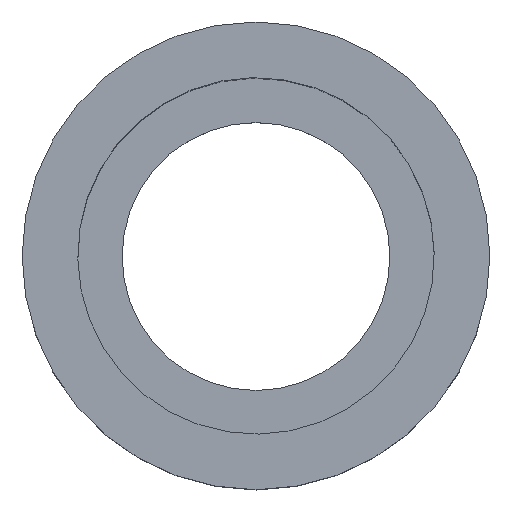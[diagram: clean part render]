
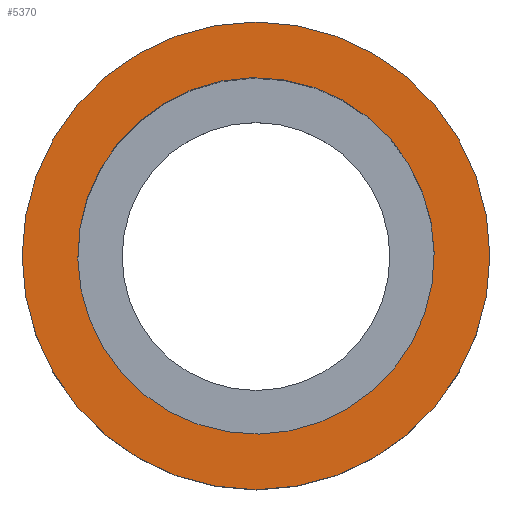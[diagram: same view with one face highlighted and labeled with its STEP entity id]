
A CAD part, top view. The second image highlights one B-rep face of the part: STEP entity #5370.
In plain terms, the highlighted planar face has unit normal (0, 0, 1).
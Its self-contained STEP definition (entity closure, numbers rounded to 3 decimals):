
#560=CARTESIAN_POINT('',(9.355,56.5,
86.515));
#570=VERTEX_POINT('',#560);
#600=CARTESIAN_POINT('',(26.653,56.805,86.515));
#610=DIRECTION('',(0.,0.,1.));
#620=DIRECTION('',(-1.,-0.018,
0.));
#630=AXIS2_PLACEMENT_3D('',#600,#610,#620);
#640=CIRCLE('',#630,17.3);
#650=CARTESIAN_POINT('',(43.95,57.11,
86.515));
#660=VERTEX_POINT('',#650);
#670=EDGE_CURVE('',#660,#570,#640,.T.);
#5120=CARTESIAN_POINT('',(26.653,35.505,86.515));
#5130=DIRECTION('',(0.,0.,1.));
#5140=DIRECTION('',(0.,1.,0.));
#5150=AXIS2_PLACEMENT_3D('',#5120,#5130,#5140);
#5160=PLANE('',#5150);
#5170=EDGE_CURVE('',#570,#660,#640,.T.);
#5180=ORIENTED_EDGE('',*,*,#5170,.F.);
#5190=ORIENTED_EDGE('',*,*,#670,.F.);
#5200=EDGE_LOOP('',(#5190,#5180));
#5210=FACE_BOUND('',#5200,.T.);
#5220=CARTESIAN_POINT('',(26.653,56.805,86.515));
#5230=DIRECTION('',(0.,0.,1.));
#5240=DIRECTION('',(0.,1.,0.));
#5250=AXIS2_PLACEMENT_3D('',#5220,#5230,#5240);
#5260=CIRCLE('',#5250,22.7);
#5270=CARTESIAN_POINT('',(26.653,79.505,86.515));
#5280=VERTEX_POINT('',#5270);
#5290=CARTESIAN_POINT('',(26.653,34.105,86.515));
#5300=VERTEX_POINT('',#5290);
#5310=EDGE_CURVE('',#5280,#5300,#5260,.T.);
#5320=ORIENTED_EDGE('',*,*,#5310,.T.);
#5330=EDGE_CURVE('',#5300,#5280,#5260,.T.);
#5340=ORIENTED_EDGE('',*,*,#5330,.T.);
#5350=EDGE_LOOP('',(#5340,#5320));
#5360=FACE_OUTER_BOUND('',#5350,.T.);
#5370=ADVANCED_FACE('',(#5210,#5360),#5160,.T.);
